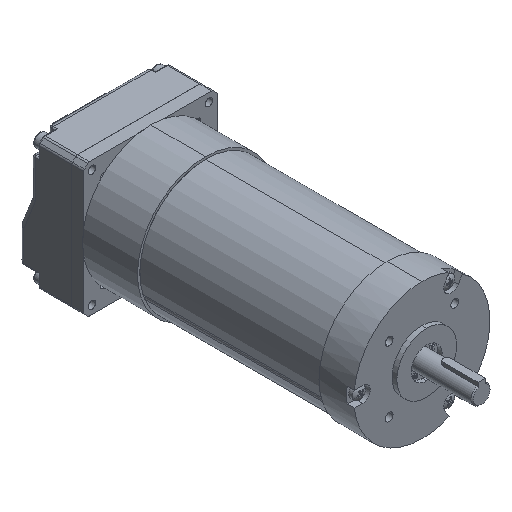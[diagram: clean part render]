
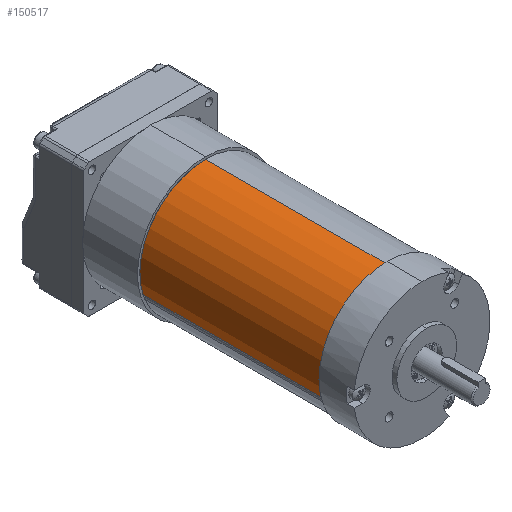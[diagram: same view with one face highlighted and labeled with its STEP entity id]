
A CAD part, isometric view. The second image highlights one B-rep face of the part: STEP entity #150517.
In plain terms, the highlighted cylindrical face has radius 27.5 mm (diameter 55 mm), a partial arc.
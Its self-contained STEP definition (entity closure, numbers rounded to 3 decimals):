
#116800=CARTESIAN_POINT('',(0.,0.,-2.));
#116801=DIRECTION('',(0.,0.,-1.));
#116802=DIRECTION('',(1.,0.,0.));
#116803=AXIS2_PLACEMENT_3D('',#116800,#116801,#116802);
#117279=DIRECTION('',(0.,0.,-1.));
#117280=VECTOR('',#117279,76.);
#117281=CARTESIAN_POINT('',(27.5,0.,-2.));
#117282=LINE('',#117281,#117280);
#117283=DIRECTION('',(0.,0.,1.));
#117284=VECTOR('',#117283,76.);
#117285=CARTESIAN_POINT('',(-8.327,-26.209,-78.));
#117286=LINE('',#117285,#117284);
#117300=CARTESIAN_POINT('',(0.,0.,-78.));
#117301=DIRECTION('',(0.,0.,1.));
#117302=DIRECTION('',(-0.303,-0.953,0.));
#117303=AXIS2_PLACEMENT_3D('',#117300,#117301,#117302);
#136052=CARTESIAN_POINT('',(-8.327,-26.209,-2.));
#136054=VERTEX_POINT('',#136052);
#136058=CARTESIAN_POINT('',(27.5,0.,-2.));
#136059=VERTEX_POINT('',#136058);
#136260=CARTESIAN_POINT('',(-8.327,-26.209,-78.));
#136261=VERTEX_POINT('',#136260);
#136264=CARTESIAN_POINT('',(27.5,0.,-78.));
#136265=VERTEX_POINT('',#136264);
#150504=CARTESIAN_POINT('',(0.,0.,-2.25));
#150505=DIRECTION('',(0.,0.,1.));
#150506=DIRECTION('',(-1.,0.,0.));
#150507=AXIS2_PLACEMENT_3D('',#150504,#150505,#150506);
#150508=CYLINDRICAL_SURFACE('',#150507,27.5);
#150510=ORIENTED_EDGE('',*,*,#150509,.T.);
#150512=ORIENTED_EDGE('',*,*,#150511,.F.);
#150513=ORIENTED_EDGE('',*,*,#150494,.T.);
#150514=ORIENTED_EDGE('',*,*,#150273,.F.);
#150515=EDGE_LOOP('',(#150510,#150512,#150513,#150514));
#150516=FACE_OUTER_BOUND('',#150515,.F.);
#116804=CIRCLE('',#116803,27.5);
#117304=CIRCLE('',#117303,27.5);
#150273=EDGE_CURVE('',#136059,#136054,#116804,.T.);
#150494=EDGE_CURVE('',#136261,#136054,#117286,.T.);
#150509=EDGE_CURVE('',#136059,#136265,#117282,.T.);
#150511=EDGE_CURVE('',#136261,#136265,#117304,.T.);
#150517=ADVANCED_FACE('',(#150516),#150508,.T.);
